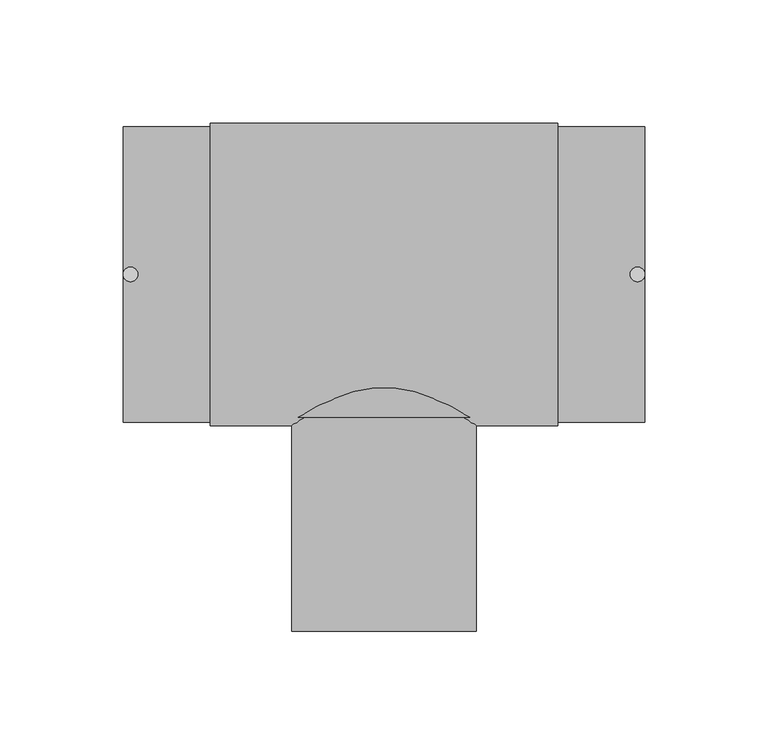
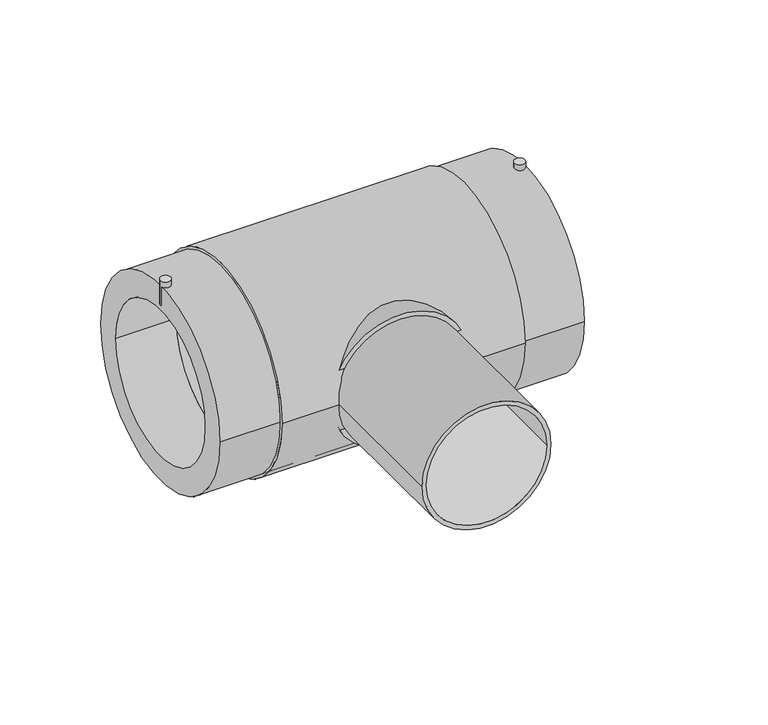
"""IFC4 building model written with IfcOpenShell, lengths in millimetres: pipe fitting geometry, EGB_VASEN_ PPR_Te electrosoldable WXRD300_Te reducida electrosoldable WXRD310 : Te electrosoldable."""

from ifc_helpers import new_model, si_unit, point, frame, frame_2d, origin, origin_2d, place, context, project, spatial, circle_curve, trimmed, segment, composite_curve, outline, extrude, source, transform, mapped, element, save


def pipe_fitting_3accf16c(model_context):
    return source(origin(), model_context, "Body", "SweptSolid", [
        extrude(outline(composite_curve([segment(trimmed(circle_curve(frame_2d((-103.0, 0.0)), 3.0), [point((-106.0, 0.0))], [point((-100.0, 0.0))], False, "CARTESIAN"), True, "CONTINUOUS"), segment(trimmed(circle_curve(frame_2d((-103.0, 0.0)), 3.0), [point((-100.0, 0.0))], [point((-106.0, 0.0))], False, "CARTESIAN"), True, "CONTINUOUS")], self_intersect=False)), frame((0.0, 0.0, 48.0), z_axis=(0.0, 0.0, 1.0), x_axis=(1.0, 0.0, 0.0)), (0.0, 0.0, 1.0), 15.0),
        extrude(outline(composite_curve([segment(trimmed(circle_curve(frame_2d((103.0, 0.0)), 3.0), [point((100.0, 0.0))], [point((106.0, 0.0))], False, "CARTESIAN"), True, "CONTINUOUS"), segment(trimmed(circle_curve(frame_2d((103.0, 0.0)), 3.0), [point((106.0, 0.0))], [point((100.0, 0.0))], False, "CARTESIAN"), True, "CONTINUOUS")], self_intersect=False)), frame((0.0, 0.0, 48.0), z_axis=(0.0, 0.0, 1.0), x_axis=(1.0, 0.0, 0.0)), (0.0, 0.0, 1.0), 15.0),
        extrude(outline(composite_curve([segment(trimmed(circle_curve(origin_2d(), 40.0), [point((0.0, 40.0))], [point((0.0, -40.0))], False, "CARTESIAN"), True, "CONTINUOUS"), segment(trimmed(circle_curve(origin_2d(), 40.0), [point((0.0, -40.0))], [point((0.0, 40.0))], False, "CARTESIAN"), True, "CONTINUOUS")], self_intersect=False)), frame((0.0, -58.0, 0.0), z_axis=(0.0, 1.0, 0.0), x_axis=(0.0, 0.0, 1.0)), (0.0, 0.0, 1.0), 58.0),
        extrude(outline(composite_curve([segment(trimmed(circle_curve(origin_2d(), 37.5), [point((0.0, -37.5))], [point((0.0, 37.5))], False, "CARTESIAN"), True, "CONTINUOUS"), segment(trimmed(circle_curve(origin_2d(), 37.5), [point((0.0, 37.5))], [point((0.0, -37.5))], False, "CARTESIAN"), True, "CONTINUOUS")], self_intersect=False), holes=[composite_curve([segment(trimmed(circle_curve(origin_2d(), 35.0), [point((0.0, -35.0))], [point((0.0, 35.0))], True, "CARTESIAN"), True, "CONTINUOUS"), segment(trimmed(circle_curve(origin_2d(), 35.0), [point((0.0, 35.0))], [point((0.0, -35.0))], True, "CARTESIAN"), True, "CONTINUOUS")], self_intersect=False)]), frame((0.0, -145.0, 0.0), z_axis=(0.0, 1.0, 0.0), x_axis=(0.0, 0.0, 1.0)), (0.0, 0.0, 1.0), 87.0),
        extrude(outline(composite_curve([segment(trimmed(circle_curve(origin_2d(), 61.5), [point((-61.5, 0.0))], [point((61.5, 0.0))], False, "CARTESIAN"), True, "CONTINUOUS"), segment(trimmed(circle_curve(origin_2d(), 61.5), [point((61.5, 0.0))], [point((-61.5, 0.0))], False, "CARTESIAN"), True, "CONTINUOUS")], self_intersect=False), holes=[composite_curve([segment(trimmed(circle_curve(origin_2d(), 45.0), [point((-45.0, 0.0))], [point((45.0, 0.0))], True, "CARTESIAN"), True, "CONTINUOUS"), segment(trimmed(circle_curve(origin_2d(), 45.0), [point((45.0, 0.0))], [point((-45.0, 0.0))], True, "CARTESIAN"), True, "CONTINUOUS")], self_intersect=False)]), frame((-70.6666667, 0.0, 0.0), z_axis=(1.0, 0.0, 0.0), x_axis=(0.0, 1.0, 0.0)), (0.0, 0.0, 1.0), 141.3333333),
        extrude(outline(composite_curve([segment(trimmed(circle_curve(origin_2d(), 60.0), [point((-60.0, 0.0))], [point((60.0, 0.0))], False, "CARTESIAN"), True, "CONTINUOUS"), segment(trimmed(circle_curve(origin_2d(), 60.0), [point((60.0, 0.0))], [point((-60.0, 0.0))], False, "CARTESIAN"), True, "CONTINUOUS")], self_intersect=False), holes=[composite_curve([segment(trimmed(circle_curve(origin_2d(), 45.0), [point((-45.0, 0.0))], [point((45.0, 0.0))], True, "CARTESIAN"), True, "CONTINUOUS"), segment(trimmed(circle_curve(origin_2d(), 45.0), [point((45.0, 0.0))], [point((-45.0, 0.0))], True, "CARTESIAN"), True, "CONTINUOUS")], self_intersect=False)]), frame((-106.0, 0.0, 0.0), z_axis=(1.0, 0.0, 0.0), x_axis=(0.0, 1.0, 0.0)), (0.0, 0.0, 1.0), 212.0),
    ])


if __name__ == "__main__":
    model = new_model("IFC4")
    model_context = context("Model", 3, world=origin())
    ifc_project = project(units=[si_unit("LENGTHUNIT", "METRE", prefix="MILLI")], contexts=[model_context])
    site = spatial("IfcSite", under=ifc_project)
    building = spatial("IfcBuilding", under=site)
    placement = place(None, origin())
    pipe_fitting_shape = pipe_fitting_3accf16c(model_context)
    element("IfcPipeFitting", 1, ObjectType="EGB_VASEN_ PPR_Te electrosoldable WXRD300_Te reducida electrosoldable WXRD310 : Te electrosoldable", at=placement, inside=building, context=model_context, shape_type="MappedRepresentation", body=[
        mapped(pipe_fitting_shape, transform((0.0, 0.0, 0.0), x_axis=(1.0, 0.0, 0.0), y_axis=(0.0, 1.0, 0.0), z_axis=(0.0, 0.0, 1.0))),
    ])
    save(model, "model.ifc")
